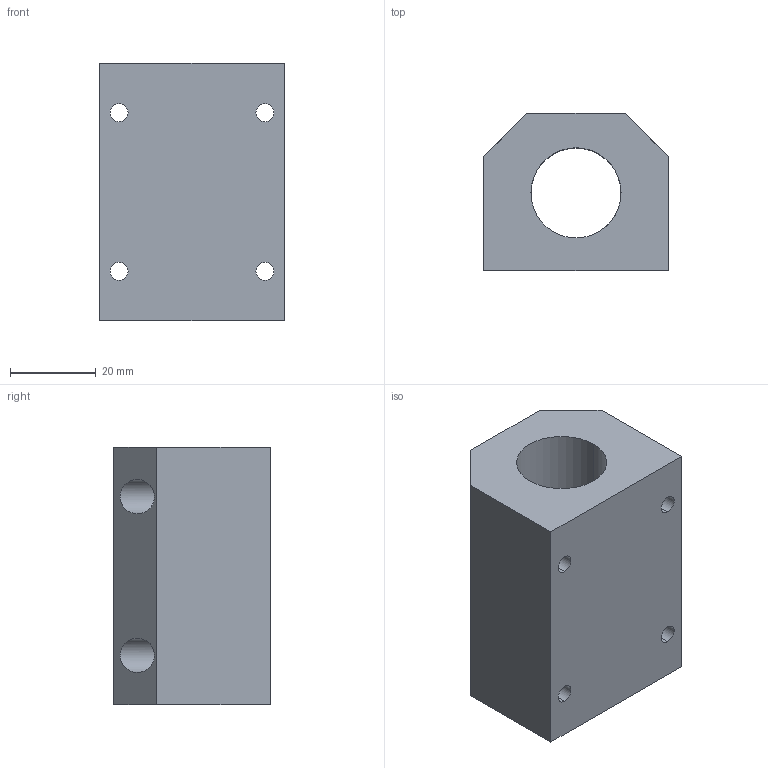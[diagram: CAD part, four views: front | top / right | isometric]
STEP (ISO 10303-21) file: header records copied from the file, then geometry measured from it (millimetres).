
FILE_DESCRIPTION (( 'STEP AP203' ), '1' );
FILE_NAME ('KTGC29-16.SLDPRT.step', '2020-05-14T10:25:22', ( '' ), ( '' ), 'SwSTEP 2.0', 'SolidWorks 2019', '' );
FILE_SCHEMA (( 'CONFIG_CONTROL_DESIGN' ));
Length unit declared in the file: millimetre
Products named in the file (2): KTGC29-16.SLDPRT
Bounding box: 43 x 36.5 x 60 mm (x, y, z)
Volume: 63295.9 mm3; surface area: 17300.5 mm2
Topology: 1 solids, 1 shells, 32 faces, 78 edges, 52 vertices
Faces by surface type: cylinder 20, plane 12
Entity records: 1191 total; most frequent: CARTESIAN_POINT 252, DIRECTION 166, ORIENTED_EDGE 156, EDGE_CURVE 78, AXIS2_PLACEMENT_3D 64, VERTEX_POINT 52, EDGE_LOOP 48, VECTOR 38
